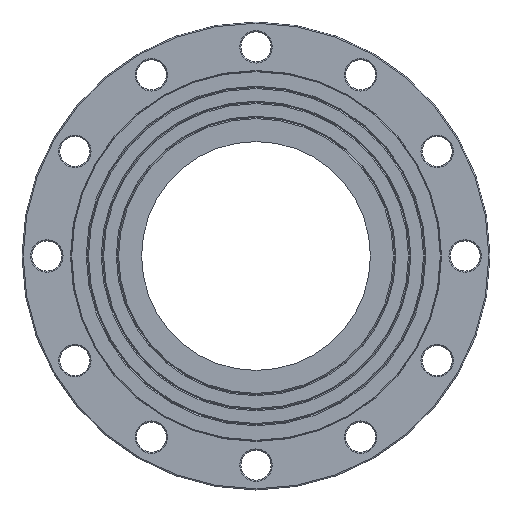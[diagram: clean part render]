
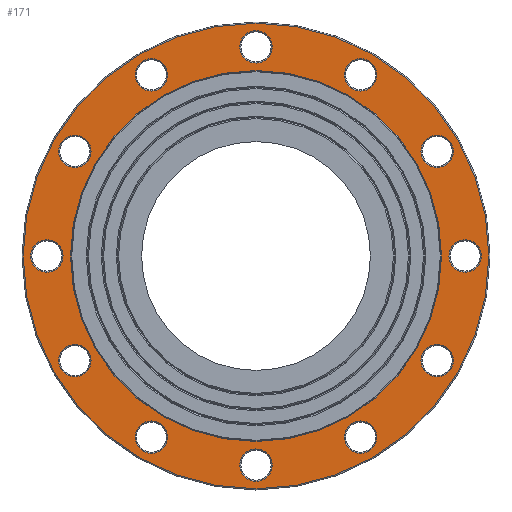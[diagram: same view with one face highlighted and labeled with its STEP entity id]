
A CAD part, front view. The second image highlights one B-rep face of the part: STEP entity #171.
In plain terms, the highlighted planar face has unit normal (0, -1, 0).
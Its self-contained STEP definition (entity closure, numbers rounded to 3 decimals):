
#171=ADVANCED_FACE('',(#271,#272,#273,#274,#275,#276,#277,#278,#279,#280,
#281,#282,#283,#284),#228,.F.);
#228=PLANE('',#1006);
#271=FACE_BOUND('',#431,.T.);
#272=FACE_BOUND('',#432,.T.);
#273=FACE_BOUND('',#433,.T.);
#274=FACE_BOUND('',#434,.T.);
#275=FACE_BOUND('',#435,.T.);
#276=FACE_BOUND('',#436,.T.);
#277=FACE_BOUND('',#437,.T.);
#278=FACE_BOUND('',#438,.T.);
#279=FACE_BOUND('',#439,.T.);
#280=FACE_BOUND('',#440,.T.);
#281=FACE_BOUND('',#441,.T.);
#282=FACE_BOUND('',#442,.T.);
#283=FACE_BOUND('',#443,.T.);
#284=FACE_BOUND('',#444,.T.);
#431=EDGE_LOOP('',(#591));
#432=EDGE_LOOP('',(#592));
#433=EDGE_LOOP('',(#593));
#434=EDGE_LOOP('',(#594));
#435=EDGE_LOOP('',(#595));
#436=EDGE_LOOP('',(#596));
#437=EDGE_LOOP('',(#597));
#438=EDGE_LOOP('',(#598));
#439=EDGE_LOOP('',(#599));
#440=EDGE_LOOP('',(#600));
#441=EDGE_LOOP('',(#601));
#442=EDGE_LOOP('',(#602));
#443=EDGE_LOOP('',(#603));
#444=EDGE_LOOP('',(#604));
#591=ORIENTED_EDGE('',*,*,#819,.T.);
#592=ORIENTED_EDGE('',*,*,#820,.T.);
#593=ORIENTED_EDGE('',*,*,#821,.T.);
#594=ORIENTED_EDGE('',*,*,#822,.T.);
#595=ORIENTED_EDGE('',*,*,#823,.T.);
#596=ORIENTED_EDGE('',*,*,#824,.T.);
#597=ORIENTED_EDGE('',*,*,#825,.T.);
#598=ORIENTED_EDGE('',*,*,#826,.T.);
#599=ORIENTED_EDGE('',*,*,#827,.T.);
#600=ORIENTED_EDGE('',*,*,#828,.T.);
#601=ORIENTED_EDGE('',*,*,#829,.T.);
#602=ORIENTED_EDGE('',*,*,#830,.T.);
#603=ORIENTED_EDGE('',*,*,#831,.F.);
#604=ORIENTED_EDGE('',*,*,#818,.T.);
#738=VERTEX_POINT('',#1464);
#739=VERTEX_POINT('',#1467);
#740=VERTEX_POINT('',#1469);
#741=VERTEX_POINT('',#1471);
#742=VERTEX_POINT('',#1473);
#743=VERTEX_POINT('',#1475);
#744=VERTEX_POINT('',#1477);
#745=VERTEX_POINT('',#1479);
#746=VERTEX_POINT('',#1481);
#747=VERTEX_POINT('',#1483);
#748=VERTEX_POINT('',#1485);
#749=VERTEX_POINT('',#1487);
#750=VERTEX_POINT('',#1489);
#751=VERTEX_POINT('',#1491);
#818=EDGE_CURVE('',#738,#738,#898,.T.);
#819=EDGE_CURVE('',#739,#739,#899,.T.);
#820=EDGE_CURVE('',#740,#740,#900,.T.);
#821=EDGE_CURVE('',#741,#741,#901,.T.);
#822=EDGE_CURVE('',#742,#742,#902,.T.);
#823=EDGE_CURVE('',#743,#743,#903,.T.);
#824=EDGE_CURVE('',#744,#744,#904,.T.);
#825=EDGE_CURVE('',#745,#745,#905,.T.);
#826=EDGE_CURVE('',#746,#746,#906,.T.);
#827=EDGE_CURVE('',#747,#747,#907,.T.);
#828=EDGE_CURVE('',#748,#748,#908,.T.);
#829=EDGE_CURVE('',#749,#749,#909,.T.);
#830=EDGE_CURVE('',#750,#750,#910,.T.);
#831=EDGE_CURVE('',#751,#751,#911,.T.);
#898=CIRCLE('',#991,201.5);
#899=CIRCLE('',#993,14.);
#900=CIRCLE('',#994,14.);
#901=CIRCLE('',#995,14.);
#902=CIRCLE('',#996,14.);
#903=CIRCLE('',#997,14.);
#904=CIRCLE('',#998,14.);
#905=CIRCLE('',#999,14.);
#906=CIRCLE('',#1000,14.);
#907=CIRCLE('',#1001,14.);
#908=CIRCLE('',#1002,14.);
#909=CIRCLE('',#1003,14.);
#910=CIRCLE('',#1004,14.);
#911=CIRCLE('',#1005,160.5);
#991=AXIS2_PLACEMENT_3D('',#1463,#1178,#1179);
#993=AXIS2_PLACEMENT_3D('',#1466,#1182,#1183);
#994=AXIS2_PLACEMENT_3D('',#1468,#1184,#1185);
#995=AXIS2_PLACEMENT_3D('',#1470,#1186,#1187);
#996=AXIS2_PLACEMENT_3D('',#1472,#1188,#1189);
#997=AXIS2_PLACEMENT_3D('',#1474,#1190,#1191);
#998=AXIS2_PLACEMENT_3D('',#1476,#1192,#1193);
#999=AXIS2_PLACEMENT_3D('',#1478,#1194,#1195);
#1000=AXIS2_PLACEMENT_3D('',#1480,#1196,#1197);
#1001=AXIS2_PLACEMENT_3D('',#1482,#1198,#1199);
#1002=AXIS2_PLACEMENT_3D('',#1484,#1200,#1201);
#1003=AXIS2_PLACEMENT_3D('',#1486,#1202,#1203);
#1004=AXIS2_PLACEMENT_3D('',#1488,#1204,#1205);
#1005=AXIS2_PLACEMENT_3D('',#1490,#1206,#1207);
#1006=AXIS2_PLACEMENT_3D('',#1492,#1208,#1209);
#1178=DIRECTION('',(0.,-1.,0.));
#1179=DIRECTION('',(1.,0.,0.));
#1182=DIRECTION('',(0.,1.,0.));
#1183=DIRECTION('',(-1.,0.,0.));
#1184=DIRECTION('',(0.,1.,0.));
#1185=DIRECTION('',(-1.,0.,0.));
#1186=DIRECTION('',(0.,1.,0.));
#1187=DIRECTION('',(-1.,0.,0.));
#1188=DIRECTION('',(0.,1.,0.));
#1189=DIRECTION('',(-1.,0.,0.));
#1190=DIRECTION('',(0.,1.,0.));
#1191=DIRECTION('',(-1.,0.,0.));
#1192=DIRECTION('',(0.,1.,0.));
#1193=DIRECTION('',(-1.,0.,0.));
#1194=DIRECTION('',(0.,1.,0.));
#1195=DIRECTION('',(-1.,0.,0.));
#1196=DIRECTION('',(0.,1.,0.));
#1197=DIRECTION('',(-1.,0.,0.));
#1198=DIRECTION('',(0.,1.,0.));
#1199=DIRECTION('',(-1.,0.,0.));
#1200=DIRECTION('',(0.,1.,0.));
#1201=DIRECTION('',(-1.,0.,0.));
#1202=DIRECTION('',(0.,1.,0.));
#1203=DIRECTION('',(-1.,0.,0.));
#1204=DIRECTION('',(0.,1.,0.));
#1205=DIRECTION('',(-1.,0.,0.));
#1206=DIRECTION('',(0.,-1.,0.));
#1207=DIRECTION('',(1.,0.,0.));
#1208=DIRECTION('',(0.,1.,0.));
#1209=DIRECTION('',(-1.,0.,0.));
#1463=CARTESIAN_POINT('',(0.,1.,0.));
#1464=CARTESIAN_POINT('',(201.5,1.,0.));
#1466=CARTESIAN_POINT('',(0.,1.,181.));
#1467=CARTESIAN_POINT('',(-14.,1.,181.));
#1468=CARTESIAN_POINT('',(-90.5,1.,156.751));
#1469=CARTESIAN_POINT('',(-104.5,1.,156.751));
#1470=CARTESIAN_POINT('',(-156.751,1.,90.5));
#1471=CARTESIAN_POINT('',(-170.751,1.,90.5));
#1472=CARTESIAN_POINT('',(-181.,1.,0.));
#1473=CARTESIAN_POINT('',(-195.,1.,0.));
#1474=CARTESIAN_POINT('',(-156.751,1.,-90.5));
#1475=CARTESIAN_POINT('',(-170.751,1.,-90.5));
#1476=CARTESIAN_POINT('',(-90.5,1.,-156.751));
#1477=CARTESIAN_POINT('',(-104.5,1.,-156.751));
#1478=CARTESIAN_POINT('',(0.,1.,-181.));
#1479=CARTESIAN_POINT('',(-14.,1.,-181.));
#1480=CARTESIAN_POINT('',(90.5,1.,-156.751));
#1481=CARTESIAN_POINT('',(76.5,1.,-156.751));
#1482=CARTESIAN_POINT('',(156.751,1.,-90.5));
#1483=CARTESIAN_POINT('',(142.751,1.,-90.5));
#1484=CARTESIAN_POINT('',(181.,1.,0.));
#1485=CARTESIAN_POINT('',(167.,1.,0.));
#1486=CARTESIAN_POINT('',(156.751,1.,90.5));
#1487=CARTESIAN_POINT('',(142.751,1.,90.5));
#1488=CARTESIAN_POINT('',(90.5,1.,156.751));
#1489=CARTESIAN_POINT('',(76.5,1.,156.751));
#1490=CARTESIAN_POINT('',(0.,1.,0.));
#1491=CARTESIAN_POINT('',(160.5,1.,0.));
#1492=CARTESIAN_POINT('',(201.5,1.,0.));
